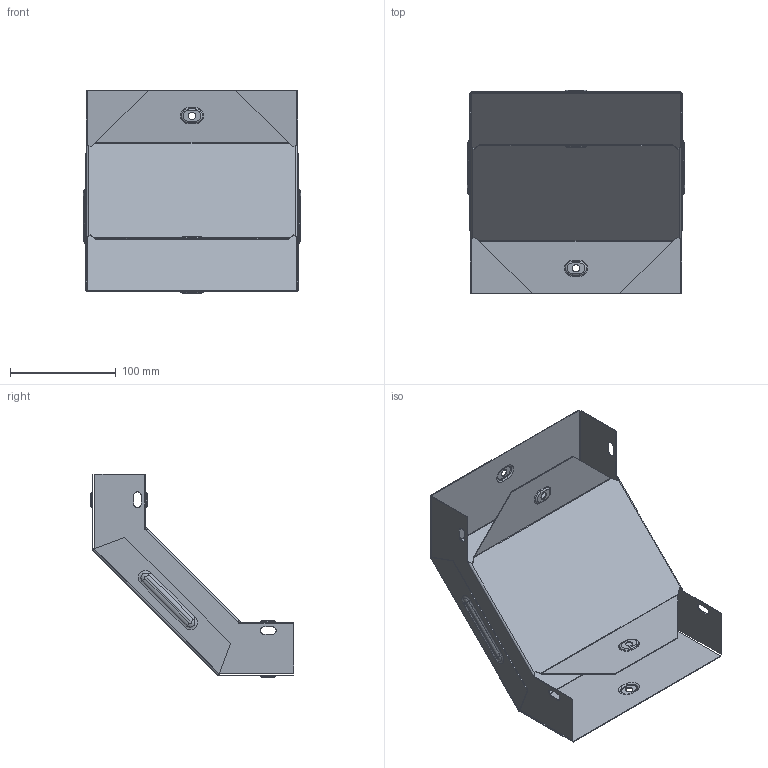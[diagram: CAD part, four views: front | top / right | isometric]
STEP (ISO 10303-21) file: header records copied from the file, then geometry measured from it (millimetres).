
FILE_DESCRIPTION (( 'STEP AP214' ), '1' );
FILE_NAME ('vo9050200_捘.STEP', '2019-06-10T09:09:33', ( '砐錪賧瘔蠈錪 Windows' ), ( '' ), 'SwSTEP 2.0', 'SolidWorks 2018', '' );
FILE_SCHEMA (( 'AUTOMOTIVE_DESIGN' ));
Length unit declared in the file: millimetre
Products named in the file (1): vo9050200_捘
Bounding box: 205.6 x 192.3 x 192.3 mm (x, y, z)
Volume: 108061.6 mm3; surface area: 272435.3 mm2
Topology: 2 solids, 2 shells, 262 faces, 606 edges, 364 vertices
Faces by surface type: cylinder 98, plane 92, torus 64, bspline 8
Entity records: 7621 total; most frequent: CARTESIAN_POINT 1481, DIRECTION 1360, ORIENTED_EDGE 1212, EDGE_CURVE 606, AXIS2_PLACEMENT_3D 531, VERTEX_POINT 364, LINE 298, VECTOR 298
